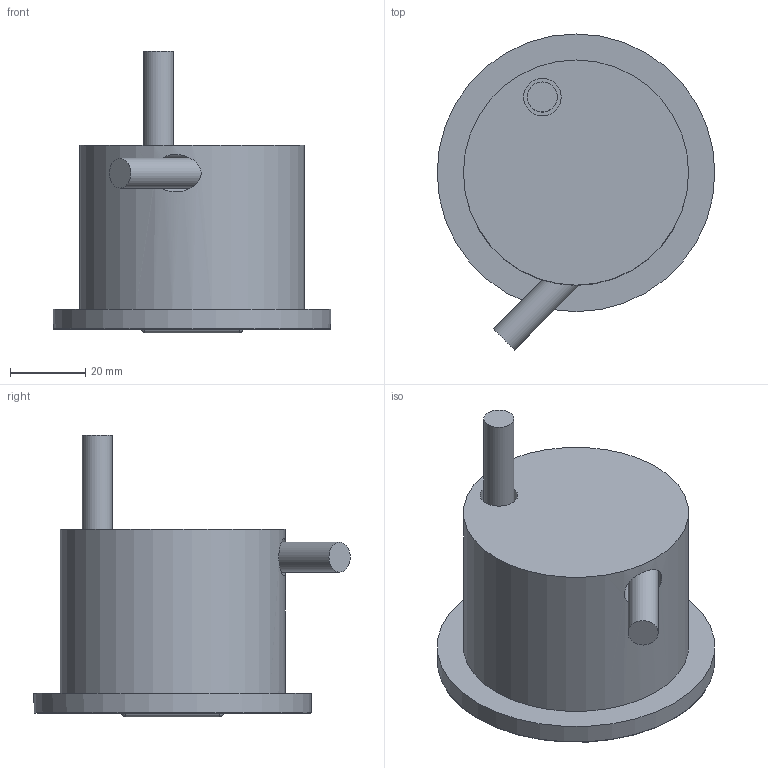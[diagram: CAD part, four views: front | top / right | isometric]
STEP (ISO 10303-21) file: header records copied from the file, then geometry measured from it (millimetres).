
FILE_DESCRIPTION((''),'2;1');
FILE_NAME('P:\Manufacturing\Autocad drawings\Inventor\blocks\Pip-Blocks\Pip US1.stp','2021-01-19T08:43:13',('ScottReyner'),(''),'Autodesk Inventor 2012','Autodesk Inventor 2012','');
FILE_SCHEMA(('AUTOMOTIVE_DESIGN { 1 0 10303 214 1 1 1 1 }'));
Length unit declared in the file: inch
Products named in the file (1): Part218
Bounding box: 74 x 84.29 x 75.01 mm (x, y, z)
Volume: 140693.1 mm3; surface area: 25784.7 mm2
Topology: 1 solids, 1 shells, 102 faces, 218 edges, 132 vertices
Faces by surface type: plane 51, cylinder 33, torus 10, sphere 4, cone 4
Full cylindrical faces by diameter (mm): 8 x2, 10 x2, 42.5 x2, 44.12 x1, 44.8 x1, 60 x1
Entity records: 2672 total; most frequent: CARTESIAN_POINT 480, DIRECTION 477, ORIENTED_EDGE 386, EDGE_CURVE 193, AXIS2_PLACEMENT_3D 184, EDGE_LOOP 138, VERTEX_POINT 129, VECTOR 109
